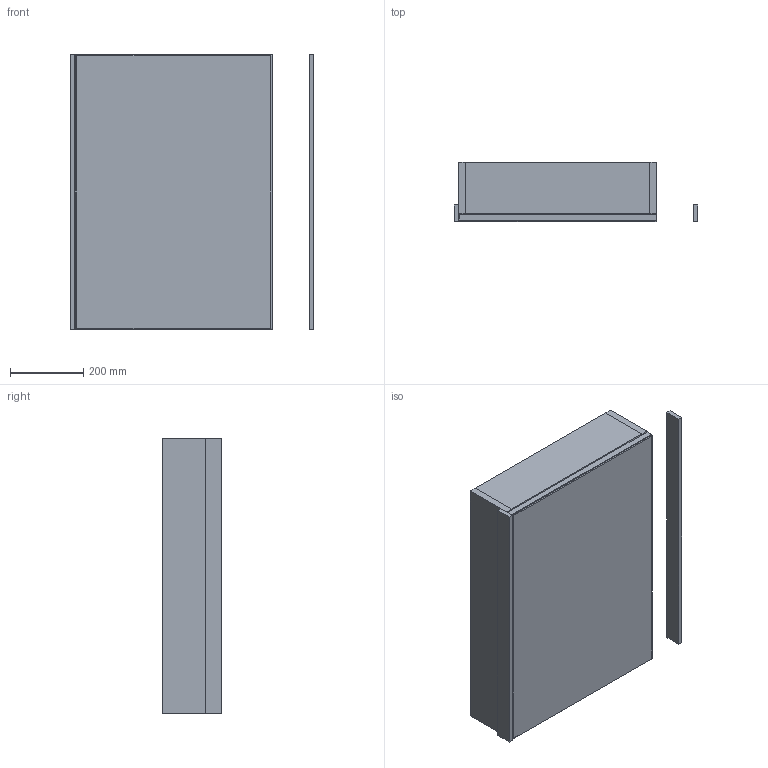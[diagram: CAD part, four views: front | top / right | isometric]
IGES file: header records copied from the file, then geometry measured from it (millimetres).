
Start section: Data from Parasolid IGES Translator 19.0.9, Copyright(c) 2006 Siemens PL M Software. All Rights Reserved.
Global section: file name: noorth-mirror-H 75 D 4,5-16 W 54_9142.igs; native system: By Siemens PLM Incorporated; preprocessor: XPlus GENERIC/IGES 19.0.9; author: Noname; organization: Noname; date: 20200519.112024; units: metre
Bounding box: 663.82 x 162 x 750 mm (x, y, z)
Volume: 16412412.3 mm3; surface area: 3401549.8 mm2
Topology: 10 solids, 10 shells, 84 faces, 168 edges, 104 vertices
Faces by surface type: plane 84
